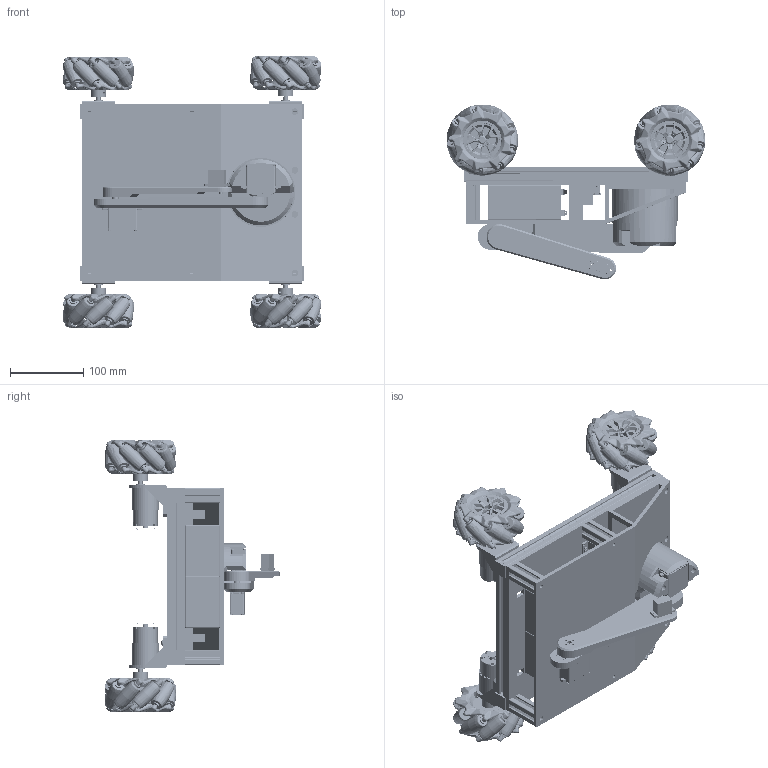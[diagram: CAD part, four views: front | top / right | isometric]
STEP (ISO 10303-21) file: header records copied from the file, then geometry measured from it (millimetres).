
FILE_DESCRIPTION(/* description */ (''),/* implementation_level */ '2;1');
FILE_NAME(/* name */ 'Assieme_drone_arm.stp',/* time_stamp */ '2025-05-27T20:41:15+02:00',/* author */ ('R5800u'),/* organization */ (''),/* preprocessor_version */ 'ST-DEVELOPER v20',/* originating_system */ 'Autodesk Inventor 2025',/* authorisation */ '');
FILE_SCHEMA (('AUTOMOTIVE_DESIGN { 1 0 10303 214 3 1 1 }'));
Products named in the file (99): Assieme_drone2; tslot-20x20-1; tslot-20x20-1_MIR; tslot-20x20-2; SNSD20x20_MIR; SNSD20x20; MM-JGB37; JGB37-520; AS 1427 - M4 x 10; MM-JGB37 v4_MIR; JGB37-520_MIR; MM-JGB37 v4_MIR1; JGB37-520_MIR1; MM-JGB37 v4_MIR_MIR; JGB37-520_MIR_MIR; Mecanum wheel - right; Mecanum wheel - left; albero_ottonre_12x6; pianoA; batteira_6V_LIFEPO4; L298N; Assembly; pcb; JST - PH - SMD (R) - 2Pin - 2.00mm; pinheaderyellow; COMPOUND; COMPOUND_1; COMPOUND_2; COMPOUND_3; COMPOUND_4; COMPOUND_5; COMPOUND_6; COMPOUND_7; COMPOUND_8; COMPOUND_9; COMPOUND_10; COMPOUND_11; COMPOUND_12; COMPOUND_13; COMPOUND_14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
Assembly tree (126 placements, depth 5):
  Assieme_drone2
    tslot-20x20-1
    tslot-20x20-1_MIR
    tslot-20x20-2  x3
    SNSD20x20  x3
    SNSD20x20_MIR  x3
    tslot-20x20-3  x4
    MM-JGB37
    JGB37-520
    AS 1427 - M4 x 10  x3
    MM-JGB37 v4_MIR
    JGB37-520_MIR
    MM-JGB37 v4_MIR1
    JGB37-520_MIR1
    MM-JGB37 v4_MIR_MIR
    JGB37-520_MIR_MIR
    Mecanum wheel - right  x2
    Mecanum wheel - left  x2
    albero_ottonre_12x6  x4
    tappi_tslot  x4
    pianoA
    batteira_6V_LIFEPO4  x2
    L298N  x2
    Assembly
      pcb
      pinheaderyellow  x2
        COMPOUND
          COMPOUND_1
          COMPOUND_2
          COMPOUND_3
          COMPOUND_4
          COMPOUND_5
          COMPOUND_6
          COMPOUND_7
          COMPOUND_8
        COMPOUND_9
          COMPOUND_10
          COMPOUND_11
          COMPOUND_12
          COMPOUND_13
          COMPOUND_14
          COMPOUND_15
          COMPOUND_16
          COMPOUND_17
      pinheader8Red  x2
        COMPOUND_18
          COMPOUND_19
          COMPOUND_20
          COMPOUND_21
          COMPOUND_22
          COMPOUND_23
          COMPOUND_24
          COMPOUND_25
          COMPOUND_26
        COMPOUND_27
          COMPOUND_28
          COMPOUND_29
          COMPOUND_30
          COMPOUND_31
          COMPOUND_32
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Bounding box: 352.4 x 238.21 x 370.3 mm (x, y, z)
Volume: 3037191.1 mm3; surface area: 1207364.9 mm2
Topology: 213 solids, 297 shells, 21577 faces, 55643 edges, 34206 vertices
Faces by surface type: plane 12537, cylinder 3974, bspline 3344, sphere 729, torus 653, cone 340
Full cylindrical faces by diameter (mm): 0.6 x2, 0.7 x64, 1 x32, 1.35 x20, 1.5 x1, 1.6 x12, 1.8 x1, 2 x14, 2.1 x2, 2.5 x34, 2.6 x12, 3 x16, 3.175 x8, 3.191 x2, 3.2 x24, 3.375 x8, 3.4 x8, 3.5 x38, 3.571 x3, 3.75 x20, 4 x20, 4.2 x23, 4.3 x4, 4.5 x12, 4.7 x1, 5 x19, 5.15 x20, 5.25 x72, 5.3 x24, 5.5 x4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
Entity records: 494153 total; most frequent: CARTESIAN_POINT 211584, ORIENTED_EDGE 58846, DIRECTION 54139, EDGE_CURVE 29535, VERTEX_POINT 18481, AXIS2_PLACEMENT_3D 18199, LINE 17741, VECTOR 17741
